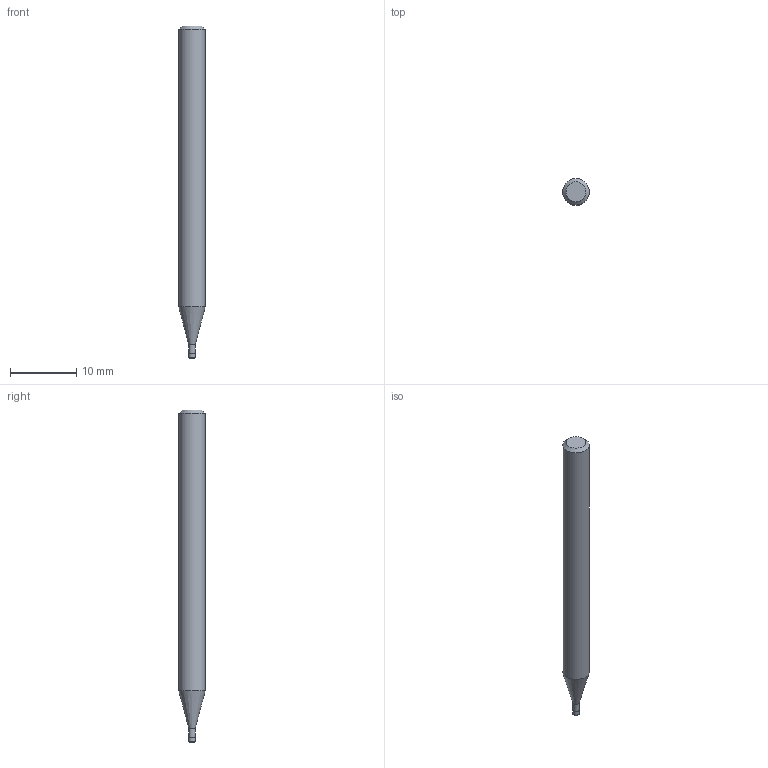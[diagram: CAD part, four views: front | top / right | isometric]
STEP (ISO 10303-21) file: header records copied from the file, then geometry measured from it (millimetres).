
FILE_DESCRIPTION((''),'2;1');
FILE_NAME('C:\Users\nsx150\AppData\Local\Temp\Mastercam 2021\KTITUSYVIC\TEMP.step','2025-03-31T18:55:19',(''),(''),'STEP Write','Mastercam 2021 ... CNC Software, Inc.','');
FILE_SCHEMA(('AUTOMOTIVE_DESIGN'));
Length unit declared in the file: millimetre
Products named in the file (1): None
Bounding box: 4 x 4 x 50 mm (x, y, z)
Volume: 562.5 mm3; surface area: 594.3 mm2
Topology: 2 solids, 2 shells, 10 faces, 14 edges, 8 vertices
Faces by surface type: plane 4, cylinder 3, cone 2, torus 1
Full cylindrical faces by diameter (mm): 0.95 x1, 1 x1, 4 x1
Entity records: 232 total; most frequent: DIRECTION 40, CARTESIAN_POINT 28, AXIS2_PLACEMENT_3D 20, ORIENTED_EDGE 16, EDGE_LOOP 16, STYLED_ITEM 13, ADVANCED_FACE 10, FACE_BOUND 10
